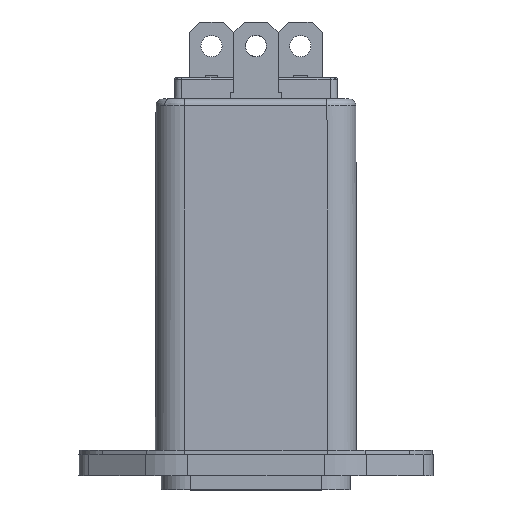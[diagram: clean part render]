
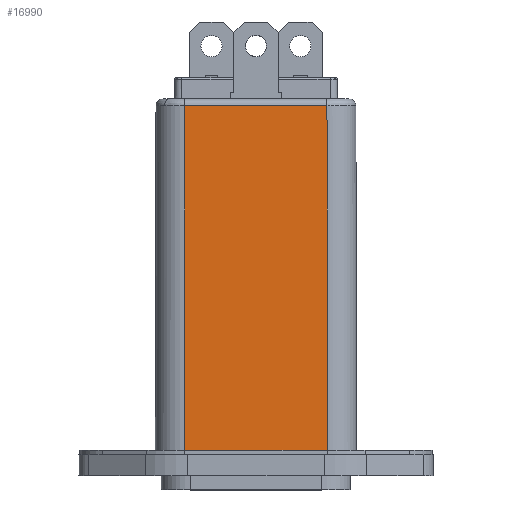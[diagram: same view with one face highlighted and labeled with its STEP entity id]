
A CAD part, top view. The second image highlights one B-rep face of the part: STEP entity #16990.
In plain terms, the highlighted planar face has unit normal (0, 0.002, 1).
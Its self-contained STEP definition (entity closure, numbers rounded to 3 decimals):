
#16623 = VERTEX_POINT('',#16624);
#16624 = CARTESIAN_POINT('',(-18.769,15.285,
    40.315));
#16990 = ADVANCED_FACE('',(#16991),#17023,.T.);
#16991 = FACE_BOUND('',#16992,.T.);
#16992 = EDGE_LOOP('',(#16993,#17003,#17009,#17017));
#16993 = ORIENTED_EDGE('',*,*,#16994,.T.);
#16994 = EDGE_CURVE('',#16995,#16997,#16999,.T.);
#16995 = VERTEX_POINT('',#16996);
#16996 = CARTESIAN_POINT('',(1.446,-33.516,40.4));
#16997 = VERTEX_POINT('',#16998);
#16998 = CARTESIAN_POINT('',(1.361,15.285,
    40.315));
#16999 = LINE('',#17000,#17001);
#17000 = CARTESIAN_POINT('',(1.446,-33.499,
    40.4));
#17001 = VECTOR('',#17002,1.);
#17002 = DIRECTION('',(-0.002,1.,
    -0.002));
#17003 = ORIENTED_EDGE('',*,*,#17004,.T.);
#17004 = EDGE_CURVE('',#16997,#16623,#17005,.T.);
#17005 = LINE('',#17006,#17007);
#17006 = CARTESIAN_POINT('',(-8.704,15.285,
    40.315));
#17007 = VECTOR('',#17008,1.);
#17008 = DIRECTION('',(-1.,0.,0.));
#17009 = ORIENTED_EDGE('',*,*,#17010,.T.);
#17010 = EDGE_CURVE('',#16623,#17011,#17013,.T.);
#17011 = VERTEX_POINT('',#17012);
#17012 = CARTESIAN_POINT('',(-18.854,-33.516,40.4)
  );
#17013 = LINE('',#17014,#17015);
#17014 = CARTESIAN_POINT('',(-18.854,-33.499,
    40.4));
#17015 = VECTOR('',#17016,1.);
#17016 = DIRECTION('',(-0.002,-1.,
    0.002));
#17017 = ORIENTED_EDGE('',*,*,#17018,.F.);
#17018 = EDGE_CURVE('',#16995,#17011,#17019,.T.);
#17019 = LINE('',#17020,#17021);
#17020 = CARTESIAN_POINT('',(-8.704,-33.516,40.4)
  );
#17021 = VECTOR('',#17022,1.);
#17022 = DIRECTION('',(-1.,0.,0.));
#17023 = PLANE('',#17024);
#17024 = AXIS2_PLACEMENT_3D('',#17025,#17026,#17027);
#17025 = CARTESIAN_POINT('',(-8.704,-33.516,40.4)
  );
#17026 = DIRECTION('',(0.,0.002,
    1.));
#17027 = DIRECTION('',(0.,-1.,
    0.002));
